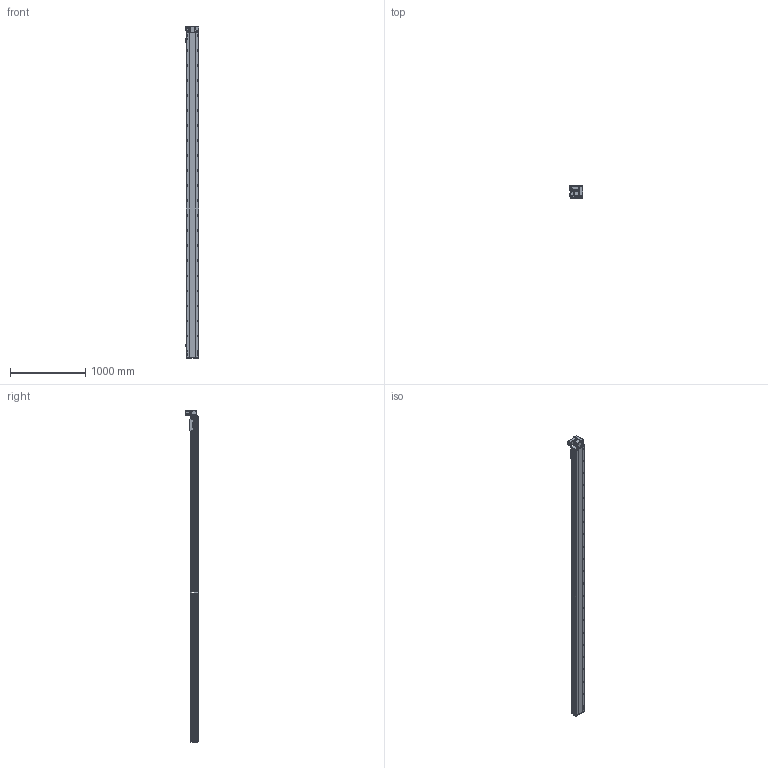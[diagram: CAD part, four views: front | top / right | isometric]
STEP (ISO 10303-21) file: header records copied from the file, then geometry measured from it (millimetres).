
FILE_DESCRIPTION (( 'STEP AP214' ), '1' );
FILE_NAME ('RTB17S-XX-4050-RW-M40-C4.STEP', '2025-12-11T09:25:31', ( '' ), ( '' ), 'SwSTEP 2.0', 'SolidWorks 2018', '' );
FILE_SCHEMA (( 'AUTOMOTIVE_DESIGN' ));
Length unit declared in the file: millimetre
Products named in the file (14): RTB17S-RW-々湍釱蚾饜-400W^RTB17S-XX-XX-RW-M40-C4; RTB17S-L-004佪裝蹟譫蟀諉釱^RTB17S-XX-XX-RW-M40-C4; 400W侜督萇儂^RTB17S-XX-XX-RW-M40-C4; RTB17S-L-007奻裔^RTB17S-XX-XX-RW-M40-C4; RTB17S-XX-4050-RW-M40-C4; RTB14-L-005P--轴承塑胶压盖^RTB17S-RW-皮带座装配-400W_RTB17S-XX-XX-RW-M40-C4; RTB14-L-018P^RTB17S-RW-々湍釱蚾饜-400W_RTB17S-XX-XX-RW-M40-C4; RTB17S-L-001耜醱啣^RTB17S-XX-XX-RW-M40-C4; RTB14-L-008-M20--萇儂啣^RTB17S-RW-々湍釱蚾饜-400W_RTB17S-XX-XX-RW-M40-C4; RTB17-R-011菁釱^RTB17S-XX-XX-RW-M40-C4; RMP17S-L-014-T20--々湍釱^RTB17S-RW-々湍釱蚾饜-400W_RTB17S-XX-XX-RW-M40-C4; OMRON EE-SX672 传感器^RTB17S-XX-XX-RW-M40-C4; RTB14-L-017P^RTB17S-RW-々湍釱蚾饜-400W_RTB17S-XX-XX-RW-M40-C4; RTH13-BL-012覜茼え俋离^RTB17S-XX-XX-RW-M40-C4
Assembly tree (16 placements, depth 3):
  RTB17S-XX-4050-RW-M40-C4
    RTB17-R-011菁釱^RTB17S-XX-XX-RW-M40-C4
    RTB17S-L-007奻裔^RTB17S-XX-XX-RW-M40-C4
    OMRON EE-SX672 传感器^RTB17S-XX-XX-RW-M40-C4  x3
    RTB17S-L-001耜醱啣^RTB17S-XX-XX-RW-M40-C4
    400W侜督萇儂^RTB17S-XX-XX-RW-M40-C4
    RTB17S-L-004佪裝蹟譫蟀諉釱^RTB17S-XX-XX-RW-M40-C4
    RTH13-BL-012覜茼え俋离^RTB17S-XX-XX-RW-M40-C4
    RTB17S-RW-々湍釱蚾饜-400W^RTB17S-XX-XX-RW-M40-C4
      RMP17S-L-014-T20--々湍釱^RTB17S-RW-々湍釱蚾饜-400W_RTB17S-XX-XX-RW-M40-C4
      RTB14-L-005P--轴承塑胶压盖^RTB17S-RW-皮带座装配-400W_RTB17S-XX-XX-RW-M40-C4
      RTB14-L-008-M20--萇儂啣^RTB17S-RW-々湍釱蚾饜-400W_RTB17S-XX-XX-RW-M40-C4
      RTB14-L-017P^RTB17S-RW-々湍釱蚾饜-400W_RTB17S-XX-XX-RW-M40-C4  x2
      RTB14-L-018P^RTB17S-RW-々湍釱蚾饜-400W_RTB17S-XX-XX-RW-M40-C4
Bounding box: 183.5 x 160.5 x 4422.5 mm (x, y, z)
Volume: 37241582.1 mm3; surface area: 4212202.2 mm2
Topology: 15 solids, 15 shells, 2461 faces, 6951 edges, 4545 vertices
Faces by surface type: plane 1100, cylinder 913, bspline 301, cone 139, torus 8
Entity records: 74921 total; most frequent: CARTESIAN_POINT 21556, ORIENTED_EDGE 10746, DIRECTION 9836, EDGE_CURVE 5373, VERTEX_POINT 3533, AXIS2_PLACEMENT_3D 3463, LINE 2910, VECTOR 2910
